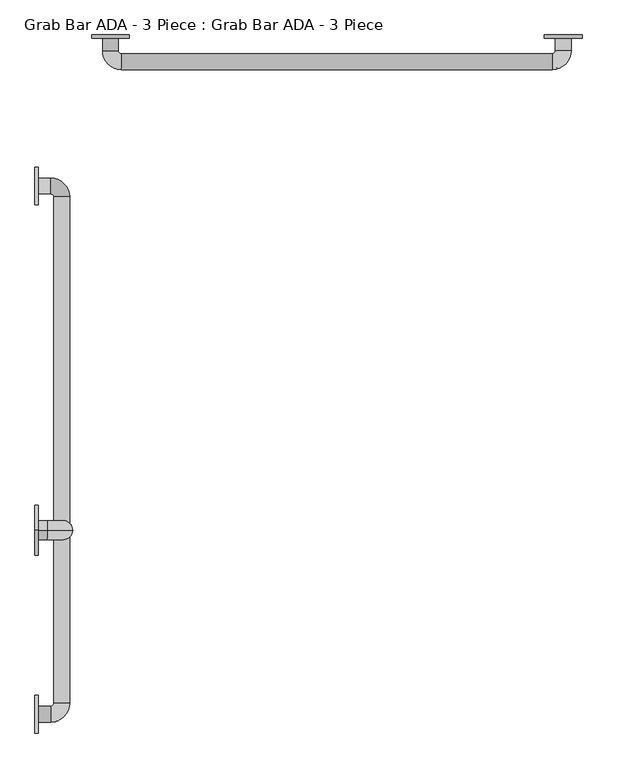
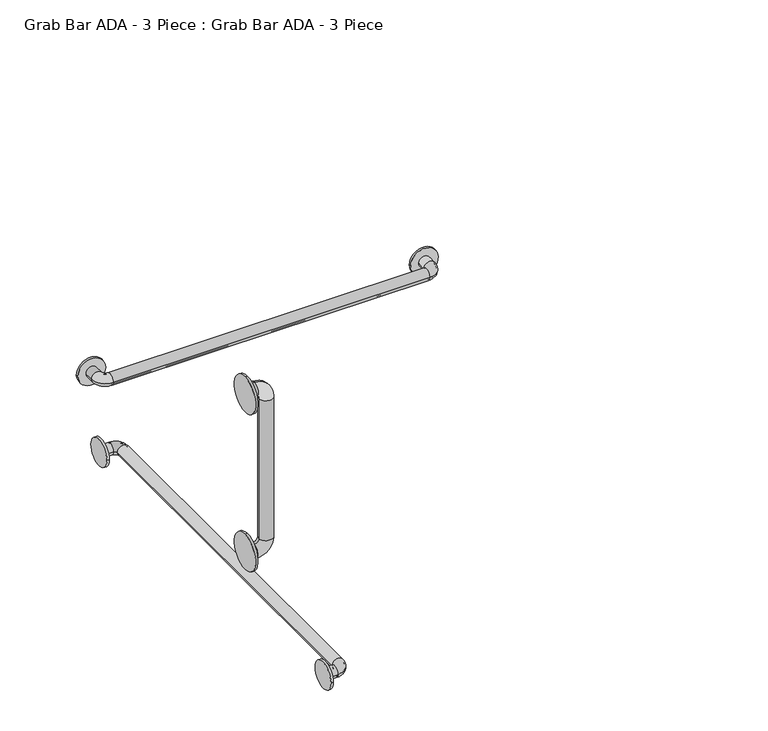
"""IFC4 building model written with IfcOpenShell, lengths in millimetres: proxy geometry, Grab Bar ADA - 3 Piece : Grab Bar ADA - 3 Piece."""

from ifc_helpers import new_model, si_unit, point, frame, frame_2d, origin, place, context, project, spatial, polyline, circle_curve, ellipse_curve, trimmed, segment, composite_curve, outline, extrude, source, transform, mapped, element, save
from ifc_brep_helpers import plane_surface, cylinder_surface, revolved_surface, advanced_brep


def grab_bar_ada_3_piece_grab_bar_ada_3_piece_27ae340b(model_context):
    return source(origin(), model_context, "Body", "SolidModel", [
        extrude(outline(composite_curve([segment(trimmed(circle_curve(frame_2d((-1092.2, 1428.75)), 50.8), [point((-1092.2, 1479.55))], [point((-1092.2, 1377.95))], False, "CARTESIAN"), True, "CONTINUOUS"), segment(trimmed(circle_curve(frame_2d((-1092.2, 1428.75)), 50.8), [point((-1092.2, 1377.95))], [point((-1092.2, 1479.55))], False, "CARTESIAN"), True, "CONTINUOUS")], self_intersect=False)), frame((0.0, 0.0, 0.0), z_axis=(1.0, 0.0, 0.0), x_axis=(0.0, 1.0, 0.0)), (0.0, 0.0, 1.0), 6.35),
        extrude(outline(composite_curve([segment(trimmed(circle_curve(frame_2d((-1092.2, 971.55)), 50.8), [point((-1092.2, 1022.35))], [point((-1092.2, 920.75))], False, "CARTESIAN"), True, "CONTINUOUS"), segment(trimmed(circle_curve(frame_2d((-1092.2, 971.55)), 50.8), [point((-1092.2, 920.75))], [point((-1092.2, 1022.35))], False, "CARTESIAN"), True, "CONTINUOUS")], self_intersect=False)), frame((0.0, 0.0, 0.0), z_axis=(1.0, 0.0, 0.0), x_axis=(0.0, 1.0, 0.0)), (0.0, 0.0, 1.0), 6.35),
        advanced_brep(
        [(6.35, -1092.2, 1416.05), (6.35, -1092.2, 1454.15), (25.4, -1092.2, 1454.15), (25.4, -1092.2, 1416.05), (76.2, -1092.2, 1403.35), (38.1, -1092.2, 1403.35), (76.2, -1092.2, 996.95), (38.1, -1092.2, 996.95), (25.4, -1092.2, 946.15), (25.4, -1092.2, 984.25), (6.35, -1092.2, 984.25), (6.35, -1092.2, 946.15)],
        [
            (0, 1, circle_curve(frame((6.35, -1092.2, 1435.1), z_axis=(-1.0, 0.0, 0.0), x_axis=(0.0, -1.0, 0.0)), 19.05)),
            (1, 0, circle_curve(frame((6.35, -1092.2, 1435.1), z_axis=(-1.0, 0.0, 0.0), x_axis=(0.0, -1.0, 0.0)), 19.05)),
            (1, 2),
            (2, 3, circle_curve(frame((25.4, -1092.2, 1435.1), z_axis=(-1.0, 0.0, 0.0), x_axis=(0.0, -1.0, 0.0)), 19.05)),
            (3, 0),
            (3, 2, circle_curve(frame((25.4, -1092.2, 1435.1), z_axis=(-1.0, 0.0, 0.0), x_axis=(0.0, -1.0, 0.0)), 19.05)),
            (4, 5, circle_curve(frame((57.15, -1092.2, 1403.35), z_axis=(0.0, 0.0, 1.0), x_axis=(0.0, -1.0, 0.0)), 19.05)),
            (5, 3, circle_curve(frame((25.4, -1092.2, 1403.35), z_axis=(0.0, -1.0, 0.0), x_axis=(0.0, 0.0, 1.0)), 12.7)),
            (2, 4, circle_curve(frame((25.4, -1092.2, 1403.35), z_axis=(0.0, 1.0, 0.0), x_axis=(0.0, 0.0, 1.0)), 50.8)),
            (5, 4, circle_curve(frame((57.15, -1092.2, 1403.35), z_axis=(0.0, 0.0, 1.0), x_axis=(0.0, -1.0, 0.0)), 19.05)),
            (4, 6),
            (6, 7, circle_curve(frame((57.15, -1092.2, 996.95), z_axis=(0.0, 0.0, 1.0), x_axis=(0.0, -1.0, 0.0)), 19.05)),
            (7, 5),
            (7, 6, circle_curve(frame((57.15, -1092.2, 996.95), z_axis=(0.0, 0.0, 1.0), x_axis=(0.0, -1.0, 0.0)), 19.05)),
            (8, 9, circle_curve(frame((25.4, -1092.2, 965.2), z_axis=(1.0, 0.0, 0.0), x_axis=(0.0, -1.0, 0.0)), 19.05)),
            (9, 7, circle_curve(frame((25.4, -1092.2, 996.95), z_axis=(0.0, -1.0, 0.0), x_axis=(1.0, 0.0, 0.0)), 12.7)),
            (6, 8, circle_curve(frame((25.4, -1092.2, 996.95), z_axis=(0.0, 1.0, 0.0), x_axis=(1.0, 0.0, 0.0)), 50.8)),
            (9, 8, circle_curve(frame((25.4, -1092.2, 965.2), z_axis=(1.0, 0.0, 0.0), x_axis=(0.0, -1.0, 0.0)), 19.05)),
            (10, 11, circle_curve(frame((6.35, -1092.2, 965.2), z_axis=(-1.0, 0.0, 0.0), x_axis=(0.0, -1.0, 0.0)), 19.05)),
            (11, 10, circle_curve(frame((6.35, -1092.2, 965.2), z_axis=(-1.0, 0.0, 0.0), x_axis=(0.0, -1.0, 0.0)), 19.05)),
            (8, 11),
            (10, 9),
        ],
        [
            plane_surface(frame((6.35, -177.8, 495.2784016), z_axis=(-1.0, 0.0, 0.0), x_axis=(0.0, -1.0, 0.0))),
            cylinder_surface(frame((6.35, -1092.2, 1435.1), z_axis=(-1.0, 0.0, 0.0), x_axis=(0.0, -1.0, 0.0)), 19.05),
            revolved_surface(trimmed(ellipse_curve(frame((25.4, -1092.2, 1435.1), z_axis=(1.0, 0.0, 0.0), x_axis=(0.0, -1.0, 0.0)), 19.05, 19.05), [point((25.4, -1092.2, 1416.05))], [point((25.4, -1092.2, 1454.15))], True, "CARTESIAN"), (25.4, -177.8, 1403.35), (0.0, -1.0, 0.0)),
            revolved_surface(trimmed(ellipse_curve(frame((25.4, -1092.2, 1435.1), z_axis=(1.0, 0.0, 0.0), x_axis=(0.0, -1.0, 0.0)), 19.05, 19.05), [point((25.4, -1092.2, 1454.15))], [point((25.4, -1092.2, 1416.05))], True, "CARTESIAN"), (25.4, -177.8, 1403.35), (0.0, -1.0, 0.0)),
            cylinder_surface(frame((57.15, -1092.2, 1403.35), z_axis=(0.0, 0.0, 1.0), x_axis=(0.0, -1.0, 0.0)), 19.05),
            revolved_surface(trimmed(ellipse_curve(frame((57.15, -1092.2, 996.95), z_axis=(0.0, 0.0, -1.0), x_axis=(0.0, -1.0, 0.0)), 19.05, 19.05), [point((38.1, -1092.2, 996.95))], [point((76.2, -1092.2, 996.95))], True, "CARTESIAN"), (25.4, -177.8, 996.95), (0.0, -1.0, 0.0)),
            revolved_surface(trimmed(ellipse_curve(frame((57.15, -1092.2, 996.95), z_axis=(0.0, 0.0, -1.0), x_axis=(0.0, -1.0, 0.0)), 19.05, 19.05), [point((76.2, -1092.2, 996.95))], [point((38.1, -1092.2, 996.95))], True, "CARTESIAN"), (25.4, -177.8, 996.95), (0.0, -1.0, 0.0)),
            plane_surface(frame((6.35, -177.8, 38.0784016), z_axis=(-1.0, 0.0, 0.0), x_axis=(0.0, 1.0, 0.0))),
            cylinder_surface(frame((25.4, -1092.2, 965.2), z_axis=(1.0, 0.0, 0.0), x_axis=(0.0, -1.0, 0.0)), 19.05),
        ],
        [
            (0, [[1, 2]]),
            (1, [[3, 4, 5, -2]]),
            (1, [[-5, 6, -3, -1]]),
            (2, [[7, 8, -4, 9]]),
            (3, [[10, -9, -6, -8]]),
            (4, [[11, 12, 13, -7]]),
            (4, [[-13, 14, -11, -10]]),
            (5, [[15, 16, -12, 17]]),
            (6, [[18, -17, -14, -16]]),
            (7, [[19, 20]]),
            (8, [[21, -19, 22, -15]]),
            (8, [[-22, -20, -21, -18]]),
        ],
    ),
        advanced_brep(
        [(6.35, -1447.8, 838.2), (6.35, -1479.55, 838.2), (6.35, -1450.975, 838.2), (6.35, -1476.375, 838.2), (31.75, -1479.55, 838.2), (31.75, -1447.8, 838.2), (31.75, -1476.375, 838.2), (31.75, -1450.975, 838.2), (69.85, -1441.45, 838.2), (38.1, -1441.45, 838.2), (66.675, -1441.45, 838.2), (41.275, -1441.45, 838.2), (69.85, -419.1, 838.2), (38.1, -419.1, 838.2), (66.675, -419.1, 838.2), (41.275, -419.1, 838.2), (31.75, -381.0, 838.2), (31.75, -412.75, 838.2), (31.75, -384.175, 838.2), (31.75, -409.575, 838.2), (6.35, -412.75, 838.2), (6.35, -381.0, 838.2), (6.35, -409.575, 838.2), (6.35, -384.175, 838.2)],
        [
            (0, 1, circle_curve(frame((6.35, -1463.675, 838.2), z_axis=(-1.0, 0.0, 0.0), x_axis=(0.0, -1.0, 0.0)), 15.875)),
            (1, 0, circle_curve(frame((6.35, -1463.675, 838.2), z_axis=(-1.0, 0.0, 0.0), x_axis=(0.0, -1.0, 0.0)), 15.875)),
            (2, 3, circle_curve(frame((6.35, -1463.675, 838.2), z_axis=(1.0, 0.0, 0.0), x_axis=(0.0, -1.0, 0.0)), 12.7)),
            (3, 2, circle_curve(frame((6.35, -1463.675, 838.2), z_axis=(1.0, 0.0, 0.0), x_axis=(0.0, -1.0, 0.0)), 12.7)),
            (1, 4),
            (4, 5, circle_curve(frame((31.75, -1463.675, 838.2), z_axis=(-1.0, 0.0, 0.0), x_axis=(0.0, -1.0, 0.0)), 15.875)),
            (5, 0),
            (5, 4, circle_curve(frame((31.75, -1463.675, 838.2), z_axis=(-1.0, 0.0, 0.0), x_axis=(0.0, -1.0, 0.0)), 15.875)),
            (3, 6),
            (6, 7, circle_curve(frame((31.75, -1463.675, 838.2), z_axis=(1.0, 0.0, 0.0), x_axis=(0.0, -1.0, 0.0)), 12.7)),
            (7, 2),
            (7, 6, circle_curve(frame((31.75, -1463.675, 838.2), z_axis=(1.0, 0.0, 0.0), x_axis=(0.0, -1.0, 0.0)), 12.7)),
            (8, 9, circle_curve(frame((53.975, -1441.45, 838.2), z_axis=(0.0, -1.0, 0.0), x_axis=(1.0, 0.0, 0.0)), 15.875)),
            (9, 5, circle_curve(frame((31.75, -1441.45, 838.2), z_axis=(0.0, 0.0, -1.0), x_axis=(0.0, -1.0, 0.0)), 6.35)),
            (4, 8, circle_curve(frame((31.75, -1441.45, 838.2), z_axis=(0.0, 0.0, 1.0), x_axis=(0.0, -1.0, 0.0)), 38.1)),
            (9, 8, circle_curve(frame((53.975, -1441.45, 838.2), z_axis=(0.0, -1.0, 0.0), x_axis=(1.0, 0.0, 0.0)), 15.875)),
            (10, 11, circle_curve(frame((53.975, -1441.45, 838.2), z_axis=(0.0, 1.0, 0.0), x_axis=(1.0, 0.0, 0.0)), 12.7)),
            (11, 7, circle_curve(frame((31.75, -1441.45, 838.2), z_axis=(0.0, 0.0, -1.0), x_axis=(0.0, -1.0, 0.0)), 9.525)),
            (6, 10, circle_curve(frame((31.75, -1441.45, 838.2), z_axis=(0.0, 0.0, 1.0), x_axis=(0.0, -1.0, 0.0)), 34.925)),
            (11, 10, circle_curve(frame((53.975, -1441.45, 838.2), z_axis=(0.0, 1.0, 0.0), x_axis=(1.0, 0.0, 0.0)), 12.7)),
            (8, 12),
            (12, 13, circle_curve(frame((53.975, -419.1, 838.2), z_axis=(0.0, -1.0, 0.0), x_axis=(1.0, 0.0, 0.0)), 15.875)),
            (13, 9),
            (13, 12, circle_curve(frame((53.975, -419.1, 838.2), z_axis=(0.0, -1.0, 0.0), x_axis=(1.0, 0.0, 0.0)), 15.875)),
            (10, 14),
            (14, 15, circle_curve(frame((53.975, -419.1, 838.2), z_axis=(0.0, 1.0, 0.0), x_axis=(1.0, 0.0, 0.0)), 12.7)),
            (15, 11),
            (15, 14, circle_curve(frame((53.975, -419.1, 838.2), z_axis=(0.0, 1.0, 0.0), x_axis=(1.0, 0.0, 0.0)), 12.7)),
            (16, 17, circle_curve(frame((31.75, -396.875, 838.2), z_axis=(1.0, 0.0, 0.0), x_axis=(0.0, 1.0, 0.0)), 15.875)),
            (17, 13, circle_curve(frame((31.75, -419.1, 838.2), z_axis=(0.0, 0.0, -1.0), x_axis=(1.0, 0.0, 0.0)), 6.35)),
            (12, 16, circle_curve(frame((31.75, -419.1, 838.2), z_axis=(0.0, 0.0, 1.0), x_axis=(1.0, 0.0, 0.0)), 38.1)),
            (17, 16, circle_curve(frame((31.75, -396.875, 838.2), z_axis=(1.0, 1.0750558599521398e-12, 0.0), x_axis=(-1.0750558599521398e-12, 1.0, 0.0)), 15.875)),
            (18, 19, circle_curve(frame((31.75, -396.875, 838.2), z_axis=(-1.0, 0.0, 0.0), x_axis=(0.0, 1.0, 0.0)), 12.7)),
            (19, 15, circle_curve(frame((31.75, -419.1, 838.2), z_axis=(0.0, 0.0, -1.0), x_axis=(1.0, 0.0, 0.0)), 9.525)),
            (14, 18, circle_curve(frame((31.75, -419.1, 838.2), z_axis=(0.0, 0.0, 1.0), x_axis=(1.0, 0.0, 0.0)), 34.925)),
            (19, 18, circle_curve(frame((31.75, -396.875, 838.2), z_axis=(-1.0, 0.0, 0.0), x_axis=(0.0, 1.0, 0.0)), 12.7)),
            (20, 21, circle_curve(frame((6.35, -396.875, 838.2), z_axis=(-1.0, 0.0, 0.0), x_axis=(0.0, 1.0, 0.0)), 15.875)),
            (21, 20, circle_curve(frame((6.35, -396.875, 838.2), z_axis=(-1.0, 0.0, 0.0), x_axis=(0.0, 1.0, 0.0)), 15.875)),
            (22, 23, circle_curve(frame((6.35, -396.875, 838.2), z_axis=(1.0, 0.0, 0.0), x_axis=(0.0, 1.0, 0.0)), 12.7)),
            (23, 22, circle_curve(frame((6.35, -396.875, 838.2), z_axis=(1.0, 0.0, 0.0), x_axis=(0.0, 1.0, 0.0)), 12.7)),
            (16, 21),
            (20, 17),
            (18, 23),
            (22, 19),
        ],
        [
            plane_surface(frame((6.35, -1463.675, 838.2), z_axis=(-1.0, 0.0, 0.0), x_axis=(0.0, 0.0, 1.0))),
            cylinder_surface(frame((6.35, -1463.675, 838.2), z_axis=(-1.0, 0.0, 0.0), x_axis=(0.0, -1.0, 0.0)), 15.875),
            revolved_surface(polyline([(31.75, -1476.375, 838.2), (6.35, -1476.375, 838.2)]), (6.35, -1463.675, 838.2), (1.0, 0.0, 0.0)),
            revolved_surface(trimmed(ellipse_curve(frame((31.75, -1463.675, 838.2), z_axis=(1.0, 0.0, 0.0), x_axis=(0.0, -1.0, 0.0)), 15.875, 15.875), [point((31.75, -1447.8, 838.2))], [point((31.75, -1479.55, 838.2))], True, "CARTESIAN"), (31.75, -1441.45, 838.2), (0.0, 0.0, -1.0)),
            revolved_surface(trimmed(ellipse_curve(frame((31.75, -1463.675, 838.2), z_axis=(1.0, 0.0, 0.0), x_axis=(0.0, -1.0, 0.0)), 15.875, 15.875), [point((31.75, -1479.55, 838.2))], [point((31.75, -1447.8, 838.2))], True, "CARTESIAN"), (31.75, -1441.45, 838.2), (0.0, 0.0, -1.0)),
            revolved_surface(trimmed(ellipse_curve(frame((31.75, -1463.675, 838.2), z_axis=(-1.0, 0.0, 0.0), x_axis=(0.0, -1.0, 0.0)), 12.7, 12.7), [point((31.75, -1450.975, 838.2))], [point((31.75, -1476.375, 838.2))], True, "CARTESIAN"), (31.75, -1441.45, 838.2), (0.0, 0.0, -1.0)),
            revolved_surface(trimmed(ellipse_curve(frame((31.75, -1463.675, 838.2), z_axis=(-1.0, 0.0, 0.0), x_axis=(0.0, -1.0, 0.0)), 12.7, 12.7), [point((31.75, -1476.375, 838.2))], [point((31.75, -1450.975, 838.2))], True, "CARTESIAN"), (31.75, -1441.45, 838.2), (0.0, 0.0, -1.0)),
            cylinder_surface(frame((53.975, -1441.45, 838.2), z_axis=(0.0, -1.0, 0.0), x_axis=(1.0, 0.0, 0.0)), 15.875),
            revolved_surface(polyline([(66.675, -419.1, 838.2), (66.675, -1441.45, 838.2)]), (53.975, -1441.45, 838.2), (0.0, 1.0, 0.0)),
            revolved_surface(trimmed(ellipse_curve(frame((53.975, -419.1, 838.2), z_axis=(0.0, 1.0, 0.0), x_axis=(1.0, 0.0, 0.0)), 15.875, 15.875), [point((38.1, -419.1, 838.2))], [point((69.85, -419.1, 838.2))], True, "CARTESIAN"), (31.75, -419.1, 838.2), (0.0, 0.0, -1.0)),
            revolved_surface(trimmed(ellipse_curve(frame((53.975, -419.1, 838.2), z_axis=(0.0, 1.0, 0.0), x_axis=(1.0, 0.0, 0.0)), 15.875, 15.875), [point((69.85, -419.1, 838.2))], [point((38.1, -419.1, 838.2))], True, "CARTESIAN"), (31.75, -419.1, 838.2), (0.0, 0.0, -1.0)),
            revolved_surface(trimmed(ellipse_curve(frame((53.975, -419.1, 838.2), z_axis=(0.0, -1.0, 0.0), x_axis=(1.0, 0.0, 0.0)), 12.7, 12.7), [point((41.275, -419.1, 838.2))], [point((66.675, -419.1, 838.2))], True, "CARTESIAN"), (31.75, -419.1, 838.2), (0.0, 0.0, -1.0)),
            revolved_surface(trimmed(ellipse_curve(frame((53.975, -419.1, 838.2), z_axis=(0.0, -1.0, 0.0), x_axis=(1.0, 0.0, 0.0)), 12.7, 12.7), [point((66.675, -419.1, 838.2))], [point((41.275, -419.1, 838.2))], True, "CARTESIAN"), (31.75, -419.1, 838.2), (0.0, 0.0, -1.0)),
            plane_surface(frame((6.35, -396.875, 838.2), z_axis=(-1.0, 0.0, 0.0), x_axis=(0.0, 0.0, 1.0))),
            cylinder_surface(frame((31.75, -396.875, 838.2), z_axis=(1.0, 0.0, 0.0), x_axis=(0.0, 1.0, 0.0)), 15.875),
            revolved_surface(polyline([(6.350000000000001, -384.175, 838.2), (31.75, -384.175, 838.2)]), (31.75, -396.875, 838.2), (-1.0, 0.0, 0.0)),
        ],
        [
            (0, [[1, 2], [3, 4]]),
            (1, [[5, 6, 7, -2]]),
            (1, [[-7, 8, -5, -1]]),
            (2, [[9, 10, 11, -4]]),
            (2, [[-11, 12, -9, -3]]),
            (3, [[13, 14, -6, 15]]),
            (4, [[16, -15, -8, -14]]),
            (5, [[17, 18, -10, 19]]),
            (6, [[20, -19, -12, -18]]),
            (7, [[21, 22, 23, -13]]),
            (7, [[-23, 24, -21, -16]]),
            (8, [[25, 26, 27, -17]]),
            (8, [[-27, 28, -25, -20]]),
            (9, [[29, 30, -22, 31]]),
            (10, [[32, -31, -24, -30]]),
            (11, [[33, 34, -26, 35]]),
            (12, [[36, -35, -28, -34]]),
            (13, [[37, 38], [39, 40]]),
            (14, [[41, -37, 42, -29]]),
            (14, [[-42, -38, -41, -32]]),
            (15, [[43, -39, 44, -33]]),
            (15, [[-44, -40, -43, -36]]),
        ],
    ),
        advanced_brep(
        [(168.275, -98.425, 838.2), (136.525, -98.425, 838.2), (165.1, -98.425, 838.2), (139.7, -98.425, 838.2), (136.525, -123.825, 838.2), (168.275, -123.825, 838.2), (139.7, -123.825, 838.2), (165.1, -123.825, 838.2), (174.625, -161.925, 838.2), (174.625, -130.175, 838.2), (174.625, -158.75, 838.2), (174.625, -133.35, 838.2), (1044.575, -161.925, 838.2), (1044.575, -130.175, 838.2), (1044.575, -158.75, 838.2), (1044.575, -133.35, 838.2), (1082.675, -123.825, 838.2), (1050.925, -123.825, 838.2), (1079.5, -123.825, 838.2), (1054.1, -123.825, 838.2), (1050.925, -98.425, 838.2), (1082.675, -98.425, 838.2), (1054.1, -98.425, 838.2), (1079.5, -98.425, 838.2)],
        [
            (0, 1, circle_curve(frame((152.4, -98.425, 838.2), z_axis=(0.0, 1.0, 0.0), x_axis=(-1.0, 0.0, 0.0)), 15.875)),
            (1, 0, circle_curve(frame((152.4, -98.425, 838.2), z_axis=(0.0, 1.0, 0.0), x_axis=(-1.0, 0.0, 0.0)), 15.875)),
            (2, 3, circle_curve(frame((152.4, -98.425, 838.2), z_axis=(0.0, -1.0, 0.0), x_axis=(-1.0, 0.0, 0.0)), 12.7)),
            (3, 2, circle_curve(frame((152.4, -98.425, 838.2), z_axis=(0.0, -1.0, 0.0), x_axis=(-1.0, 0.0, 0.0)), 12.7)),
            (1, 4),
            (4, 5, circle_curve(frame((152.4, -123.825, 838.2), z_axis=(0.0, 1.0, 0.0), x_axis=(-1.0, 0.0, 0.0)), 15.875)),
            (5, 0),
            (5, 4, circle_curve(frame((152.4, -123.825, 838.2), z_axis=(0.0, 1.0, 0.0), x_axis=(-1.0, 0.0, 0.0)), 15.875)),
            (3, 6),
            (6, 7, circle_curve(frame((152.4, -123.825, 838.2), z_axis=(0.0, -1.0, 0.0), x_axis=(-1.0, 0.0, 0.0)), 12.7)),
            (7, 2),
            (7, 6, circle_curve(frame((152.4, -123.825, 838.2), z_axis=(0.0, -1.0, 0.0), x_axis=(-1.0, 0.0, 0.0)), 12.7)),
            (8, 9, circle_curve(frame((174.625, -146.05, 838.2), z_axis=(-1.0, 0.0, 0.0), x_axis=(0.0, -1.0, 0.0)), 15.875)),
            (9, 5, circle_curve(frame((174.625, -123.825, 838.2), z_axis=(0.0, 0.0, -1.0), x_axis=(-1.0, 0.0, 0.0)), 6.35)),
            (4, 8, circle_curve(frame((174.625, -123.825, 838.2), z_axis=(0.0, 0.0, 1.0), x_axis=(-1.0, 0.0, 0.0)), 38.1)),
            (9, 8, circle_curve(frame((174.625, -146.05, 838.2), z_axis=(-1.0, 0.0, 0.0), x_axis=(0.0, -1.0, 0.0)), 15.875)),
            (10, 11, circle_curve(frame((174.625, -146.05, 838.2), z_axis=(1.0, 0.0, 0.0), x_axis=(0.0, -1.0, 0.0)), 12.7)),
            (11, 7, circle_curve(frame((174.625, -123.825, 838.2), z_axis=(0.0, 0.0, -1.0), x_axis=(-1.0, 0.0, 0.0)), 9.525)),
            (6, 10, circle_curve(frame((174.625, -123.825, 838.2), z_axis=(0.0, 0.0, 1.0), x_axis=(-1.0, 0.0, 0.0)), 34.925)),
            (11, 10, circle_curve(frame((174.625, -146.05, 838.2), z_axis=(1.0, 0.0, 0.0), x_axis=(0.0, -1.0, 0.0)), 12.7)),
            (8, 12),
            (12, 13, circle_curve(frame((1044.575, -146.05, 838.2), z_axis=(-1.0, 0.0, 0.0), x_axis=(0.0, -1.0, 0.0)), 15.875)),
            (13, 9),
            (13, 12, circle_curve(frame((1044.575, -146.05, 838.2), z_axis=(-1.0, 0.0, 0.0), x_axis=(0.0, -1.0, 0.0)), 15.875)),
            (10, 14),
            (14, 15, circle_curve(frame((1044.575, -146.05, 838.2), z_axis=(1.0, 0.0, 0.0), x_axis=(0.0, -1.0, 0.0)), 12.7)),
            (15, 11),
            (15, 14, circle_curve(frame((1044.575, -146.05, 838.2), z_axis=(1.0, 0.0, 0.0), x_axis=(0.0, -1.0, 0.0)), 12.7)),
            (16, 17, circle_curve(frame((1066.8, -123.825, 838.2), z_axis=(0.0, -1.0, 0.0), x_axis=(1.0, 0.0, 0.0)), 15.875)),
            (17, 13, circle_curve(frame((1044.575, -123.825, 838.2), z_axis=(0.0, 0.0, -1.0), x_axis=(0.0, -1.0, 0.0)), 6.35)),
            (12, 16, circle_curve(frame((1044.575, -123.825, 838.2), z_axis=(0.0, 0.0, 1.0), x_axis=(0.0, -1.0, 0.0)), 38.1)),
            (17, 16, circle_curve(frame((1066.8, -123.825, 838.2), z_axis=(1.0743897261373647e-12, -1.0, 0.0), x_axis=(1.0, 1.0743897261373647e-12, 0.0)), 15.875)),
            (18, 19, circle_curve(frame((1066.8, -123.825, 838.2), z_axis=(0.0, 1.0, 0.0), x_axis=(1.0, 0.0, 0.0)), 12.7)),
            (19, 15, circle_curve(frame((1044.575, -123.825, 838.2), z_axis=(0.0, 0.0, -1.0), x_axis=(0.0, -1.0, 0.0)), 9.525)),
            (14, 18, circle_curve(frame((1044.575, -123.825, 838.2), z_axis=(0.0, 0.0, 1.0), x_axis=(0.0, -1.0, 0.0)), 34.925)),
            (19, 18, circle_curve(frame((1066.8, -123.825, 838.2), z_axis=(0.0, 1.0, 0.0), x_axis=(1.0, 0.0, 0.0)), 12.7)),
            (20, 21, circle_curve(frame((1066.8, -98.425, 838.2), z_axis=(0.0, 1.0, 0.0), x_axis=(1.0, 0.0, 0.0)), 15.875)),
            (21, 20, circle_curve(frame((1066.8, -98.425, 838.2), z_axis=(0.0, 1.0, 0.0), x_axis=(1.0, 0.0, 0.0)), 15.875)),
            (22, 23, circle_curve(frame((1066.8, -98.425, 838.2), z_axis=(0.0, -1.0, 0.0), x_axis=(1.0, 0.0, 0.0)), 12.7)),
            (23, 22, circle_curve(frame((1066.8, -98.425, 838.2), z_axis=(0.0, -1.0, 0.0), x_axis=(1.0, 0.0, 0.0)), 12.7)),
            (16, 21),
            (20, 17),
            (18, 23),
            (22, 19),
        ],
        [
            plane_surface(frame((152.4, -98.425, 838.2), z_axis=(0.0, 1.0, 0.0), x_axis=(0.0, 0.0, 1.0))),
            cylinder_surface(frame((152.4, -98.425, 838.2), z_axis=(0.0, 1.0, 0.0), x_axis=(-1.0, 0.0, 0.0)), 15.875),
            revolved_surface(polyline([(139.70000000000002, -123.825, 838.2), (139.70000000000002, -98.425, 838.2)]), (152.4, -98.425, 838.2), (0.0, -1.0, 0.0)),
            revolved_surface(trimmed(ellipse_curve(frame((152.4, -123.825, 838.2), z_axis=(0.0, -1.0, 0.0), x_axis=(-1.0, 0.0, 0.0)), 15.875, 15.875), [point((168.275, -123.825, 838.2))], [point((136.525, -123.825, 838.2))], True, "CARTESIAN"), (174.625, -123.825, 838.2), (0.0, 0.0, -1.0)),
            revolved_surface(trimmed(ellipse_curve(frame((152.4, -123.825, 838.2), z_axis=(0.0, -1.0, 0.0), x_axis=(-1.0, 0.0, 0.0)), 15.875, 15.875), [point((136.525, -123.825, 838.2))], [point((168.275, -123.825, 838.2))], True, "CARTESIAN"), (174.625, -123.825, 838.2), (0.0, 0.0, -1.0)),
            revolved_surface(trimmed(ellipse_curve(frame((152.4, -123.825, 838.2), z_axis=(0.0, 1.0, 0.0), x_axis=(-1.0, 0.0, 0.0)), 12.7, 12.7), [point((165.1, -123.825, 838.2))], [point((139.7, -123.825, 838.2))], True, "CARTESIAN"), (174.625, -123.825, 838.2), (0.0, 0.0, -1.0)),
            revolved_surface(trimmed(ellipse_curve(frame((152.4, -123.825, 838.2), z_axis=(0.0, 1.0, 0.0), x_axis=(-1.0, 0.0, 0.0)), 12.7, 12.7), [point((139.7, -123.825, 838.2))], [point((165.1, -123.825, 838.2))], True, "CARTESIAN"), (174.625, -123.825, 838.2), (0.0, 0.0, -1.0)),
            cylinder_surface(frame((174.625, -146.05, 838.2), z_axis=(-1.0, 0.0, 0.0), x_axis=(0.0, -1.0, 0.0)), 15.875),
            revolved_surface(polyline([(1044.575, -158.75, 838.2), (174.625, -158.75, 838.2)]), (174.625, -146.05, 838.2), (1.0, 0.0, 0.0)),
            revolved_surface(trimmed(ellipse_curve(frame((1044.575, -146.05, 838.2), z_axis=(1.0, 0.0, 0.0), x_axis=(0.0, -1.0, 0.0)), 15.875, 15.875), [point((1044.575, -130.175, 838.2))], [point((1044.575, -161.925, 838.2))], True, "CARTESIAN"), (1044.575, -123.825, 838.2), (0.0, 0.0, -1.0)),
            revolved_surface(trimmed(ellipse_curve(frame((1044.575, -146.05, 838.2), z_axis=(1.0, 0.0, 0.0), x_axis=(0.0, -1.0, 0.0)), 15.875, 15.875), [point((1044.575, -161.925, 838.2))], [point((1044.575, -130.175, 838.2))], True, "CARTESIAN"), (1044.575, -123.825, 838.2), (0.0, 0.0, -1.0)),
            revolved_surface(trimmed(ellipse_curve(frame((1044.575, -146.05, 838.2), z_axis=(-1.0, 0.0, 0.0), x_axis=(0.0, -1.0, 0.0)), 12.7, 12.7), [point((1044.575, -133.35, 838.2))], [point((1044.575, -158.75, 838.2))], True, "CARTESIAN"), (1044.575, -123.825, 838.2), (0.0, 0.0, -1.0)),
            revolved_surface(trimmed(ellipse_curve(frame((1044.575, -146.05, 838.2), z_axis=(-1.0, 0.0, 0.0), x_axis=(0.0, -1.0, 0.0)), 12.7, 12.7), [point((1044.575, -158.75, 838.2))], [point((1044.575, -133.35, 838.2))], True, "CARTESIAN"), (1044.575, -123.825, 838.2), (0.0, 0.0, -1.0)),
            plane_surface(frame((1066.8, -98.425, 838.2), z_axis=(0.0, 1.0, 0.0), x_axis=(0.0, 0.0, 1.0))),
            cylinder_surface(frame((1066.8, -123.825, 838.2), z_axis=(0.0, -1.0, 0.0), x_axis=(1.0, 0.0, 0.0)), 15.875),
            revolved_surface(polyline([(1079.5, -98.425, 838.2), (1079.5, -123.825, 838.2)]), (1066.8, -123.825, 838.2), (0.0, 1.0, 0.0)),
        ],
        [
            (0, [[1, 2], [3, 4]]),
            (1, [[5, 6, 7, -2]]),
            (1, [[-7, 8, -5, -1]]),
            (2, [[9, 10, 11, -4]]),
            (2, [[-11, 12, -9, -3]]),
            (3, [[13, 14, -6, 15]]),
            (4, [[16, -15, -8, -14]]),
            (5, [[17, 18, -10, 19]]),
            (6, [[20, -19, -12, -18]]),
            (7, [[21, 22, 23, -13]]),
            (7, [[-23, 24, -21, -16]]),
            (8, [[25, 26, 27, -17]]),
            (8, [[-27, 28, -25, -20]]),
            (9, [[29, 30, -22, 31]]),
            (10, [[32, -31, -24, -30]]),
            (11, [[33, 34, -26, 35]]),
            (12, [[36, -35, -28, -34]]),
            (13, [[37, 38], [39, 40]]),
            (14, [[41, -37, 42, -29]]),
            (14, [[-42, -38, -41, -32]]),
            (15, [[43, -39, 44, -33]]),
            (15, [[-44, -40, -43, -36]]),
        ],
    ),
        extrude(outline(composite_curve([segment(trimmed(circle_curve(frame_2d((-396.875, 838.2)), 38.1), [point((-358.775, 838.2))], [point((-434.975, 838.2))], False, "CARTESIAN"), True, "CONTINUOUS"), segment(trimmed(circle_curve(frame_2d((-396.875, 838.2)), 38.1), [point((-434.975, 838.2))], [point((-358.775, 838.2))], False, "CARTESIAN"), True, "CONTINUOUS")], self_intersect=False)), frame((0.0, 0.0, 0.0), z_axis=(1.0, 0.0, 0.0), x_axis=(0.0, 1.0, 0.0)), (0.0, 0.0, 1.0), 6.35),
        extrude(outline(composite_curve([segment(trimmed(circle_curve(frame_2d((-1463.675, 838.2)), 38.1), [point((-1425.575, 838.2))], [point((-1501.775, 838.2))], False, "CARTESIAN"), True, "CONTINUOUS"), segment(trimmed(circle_curve(frame_2d((-1463.675, 838.2)), 38.1), [point((-1501.775, 838.2))], [point((-1425.575, 838.2))], False, "CARTESIAN"), True, "CONTINUOUS")], self_intersect=False)), frame((0.0, 0.0, 0.0), z_axis=(1.0, 0.0, 0.0), x_axis=(0.0, 1.0, 0.0)), (0.0, 0.0, 1.0), 6.35),
        extrude(outline(composite_curve([segment(trimmed(circle_curve(frame_2d((838.2, 1066.8)), 38.1), [point((838.2, 1028.7))], [point((838.2, 1104.9))], False, "CARTESIAN"), True, "CONTINUOUS"), segment(trimmed(circle_curve(frame_2d((838.2, 1066.8)), 38.1), [point((838.2, 1104.9))], [point((838.2, 1028.7))], False, "CARTESIAN"), True, "CONTINUOUS")], self_intersect=False)), frame((0.0, -98.425, 0.0), z_axis=(0.0, 1.0, 0.0), x_axis=(0.0, 0.0, 1.0)), (0.0, 0.0, 1.0), 6.35),
        extrude(outline(composite_curve([segment(trimmed(circle_curve(frame_2d((838.2, 152.4)), 38.1), [point((838.2, 114.3))], [point((838.2, 190.5))], False, "CARTESIAN"), True, "CONTINUOUS"), segment(trimmed(circle_curve(frame_2d((838.2, 152.4)), 38.1), [point((838.2, 190.5))], [point((838.2, 114.3))], False, "CARTESIAN"), True, "CONTINUOUS")], self_intersect=False)), frame((0.0, -98.425, 0.0), z_axis=(0.0, 1.0, 0.0), x_axis=(0.0, 0.0, 1.0)), (0.0, 0.0, 1.0), 6.35),
    ])


if __name__ == "__main__":
    model = new_model("IFC4")
    model_context = context("Model", 3, world=origin())
    ifc_project = project(units=[si_unit("LENGTHUNIT", "METRE", prefix="MILLI")], contexts=[model_context])
    site = spatial("IfcSite", under=ifc_project)
    building = spatial("IfcBuilding", under=site)
    placement = place(None, origin())
    grab_bar_ada_3_piece_grab_bar_ada_3_piece_shape = grab_bar_ada_3_piece_grab_bar_ada_3_piece_27ae340b(model_context)
    element("IfcBuildingElementProxy", 1, Name="Grab Bar ADA - 3 Piece : Grab Bar ADA - 3 Piece", ObjectType="Grab Bar ADA - 3 Piece : Grab Bar ADA - 3 Piece", at=placement, inside=building, context=model_context, shape_type="MappedRepresentation", body=[
        mapped(grab_bar_ada_3_piece_grab_bar_ada_3_piece_shape, transform((0.0, 0.0, 0.0), x_axis=(1.0, 0.0, 0.0), y_axis=(0.0, 1.0, 0.0), z_axis=(0.0, 0.0, 1.0))),
    ])
    save(model, "model.ifc")
